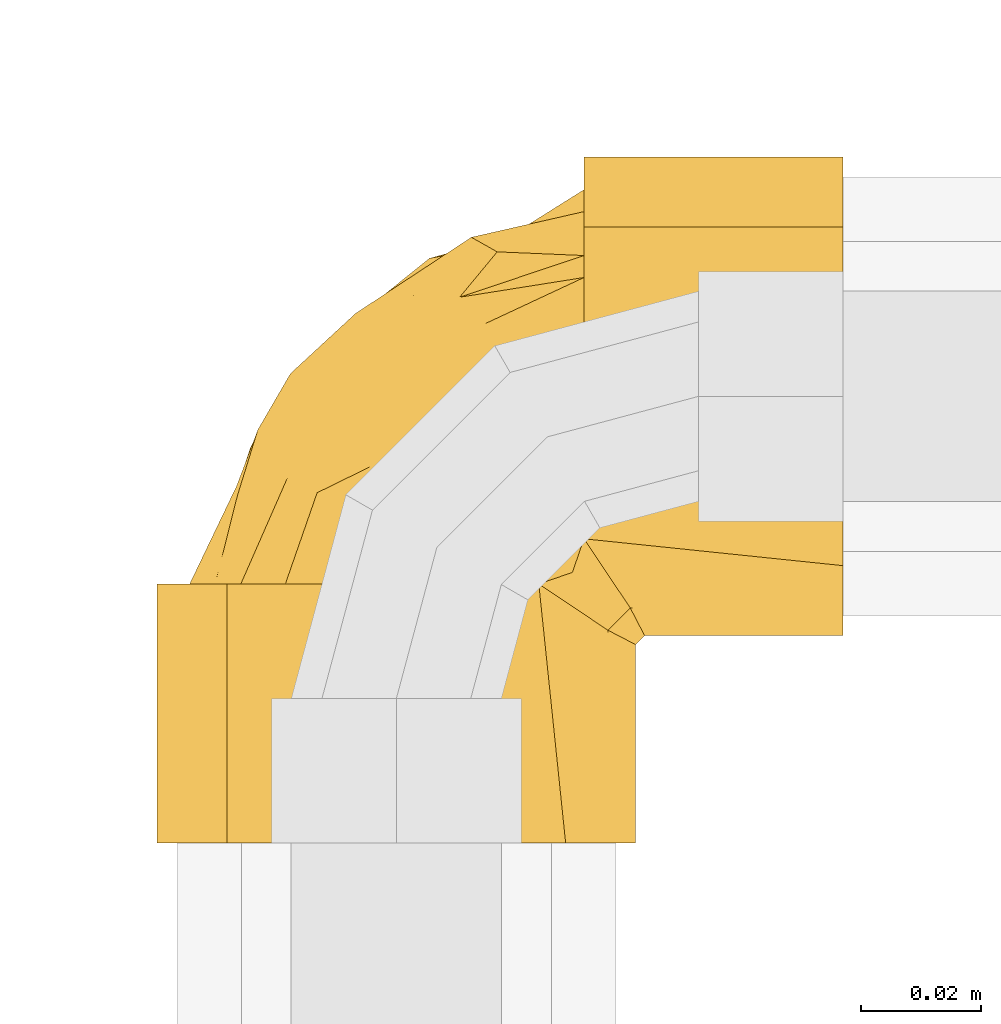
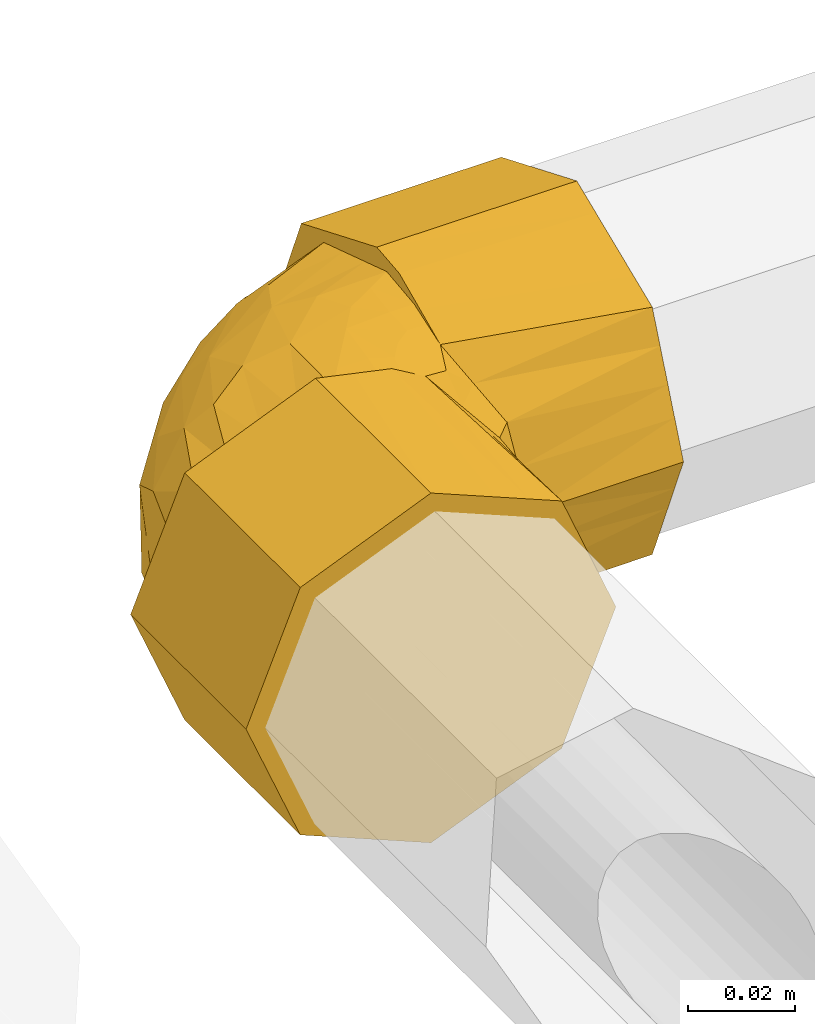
# One storey, part 276 of 652: 1 covering.
"""IFC2X3 building model written with IfcOpenShell, lengths in millimetres."""

from ifc_helpers import new_model, entity, si_unit, converted_unit, direction, frame, origin, place, context, subcontext, project, spatial, faceted_brep, material, type_object, element, save


model = new_model("IFC2X3")

# Units and contexts
model_context = context("Model", 3, precision=0.01, world=frame((0.0, 0.0, 308426.39999999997)), true_north=direction((6.123233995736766e-17, 1.0)))
plan_context = context("Plan", 3, precision=0.01, world=frame((0.0, 0.0, 308426.39999999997)), true_north=direction((6.123233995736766e-17, 1.0)))
body_context = subcontext(model_context, "Body", "Model", "MODEL_VIEW")
ifc_project = project(units=[si_unit("LENGTHUNIT", "METRE", prefix="MILLI"), si_unit("AREAUNIT", "SQUARE_METRE"), si_unit("VOLUMEUNIT", "CUBIC_METRE"), converted_unit("PLANEANGLEUNIT", "DEGREE", entity("IfcPlaneAngleMeasure", 0.017453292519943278), si_unit("PLANEANGLEUNIT", "RADIAN"), dimensions=[0, 0, 0, 0, 0, 0, 0])], contexts=[model_context, plan_context])

# Site, building, storey
site_placement = place(None, origin())
site = spatial("IfcSite", under=ifc_project, at=site_placement, Name="Default", CompositionType="ELEMENT")
building_placement = place(site_placement, origin())
building = spatial("IfcBuilding", under=site, at=building_placement, CompositionType="ELEMENT")
storey_placement = place(building_placement, frame((0.0, 0.0, 1730.6999999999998)))
storey = spatial("IfcBuildingStorey", under=building, at=storey_placement, Name="EG_Produktion_FFB", CompositionType="ELEMENT", Elevation=1730.6999999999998)

# Covering
ifc_material = material(Name="Dämmung - Armaflex-Schlauch")
covering_type = type_object("IfcCoveringType", Name="Rohrdämmung außen:Armaflex-Schlauch", PredefinedType="INSULATION")
covering_placement = place(storey_placement, frame((79080.69747546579, 78704.48010396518, 3641.3952722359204)))
element("IfcCovering", 1, at=covering_placement, inside=storey, type_object=covering_type, material=ifc_material, Name="Rohrdämmung außen:Armaflex-Schlauch", ObjectType="Rohrdämmung außen:Armaflex-Schlauch", PredefinedType="INSULATION", context=body_context, shape_type="Brep", body=[
    faceted_brep([(72.59527223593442, 60.274884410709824, -76.69198954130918), (72.59527223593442, 64.29230202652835, -77.16404151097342), (72.59527223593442, 70.51547105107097, -77.89527223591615), (72.59527223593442, 78.15107734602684, -74.45323515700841), (72.59527223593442, 85.78668364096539, -71.01119807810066), (72.59527223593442, 92.9604596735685, -67.77734838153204), (72.59527223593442, 100.13423570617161, -64.54349868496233), (72.59527223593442, 104.38836473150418, -52.96938546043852), (72.59527223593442, 108.64249375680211, -41.39527223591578), (72.59527223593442, 104.99034516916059, -34.17467666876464), (72.59527223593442, 101.33819658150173, -26.954081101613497), (72.59527223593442, 97.68604799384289, -19.733485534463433), (72.59527223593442, 94.03389940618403, -12.512889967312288), (72.59527223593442, 86.6719403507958, -10.128351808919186), (72.59527223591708, 78.59370570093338, -7.5118120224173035), (72.59527223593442, 70.51547105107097, -4.89527223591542), (72.59527223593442, 64.29230202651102, -5.62650296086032), (72.59527223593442, 60.274884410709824, -6.0985549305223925), (72.59527223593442, 55.423202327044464, -7.7518393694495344), (72.59527223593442, 50.57152024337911, -9.405123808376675), (72.59527223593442, 58.21189368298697, -5.948218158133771), (72.59527223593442, 65.8522671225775, -2.4913125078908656), (72.59527223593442, 74.24999999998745, -1.5952722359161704), (72.59527223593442, 82.25021212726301, -4.909068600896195), (72.59527223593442, 88.32142494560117, -7.423847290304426), (72.59527223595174, 95.35713741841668, -10.33813481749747), (72.59527223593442, 102.39284989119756, -13.252422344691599), (72.59527223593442, 105.3071374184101, -20.288134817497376), (72.59527223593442, 108.2214249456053, -27.323847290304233), (72.59527223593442, 111.13571247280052, -34.359559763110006), (72.59527223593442, 114.0499999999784, -41.39527223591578), (72.59527223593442, 110.73620360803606, -49.39548442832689), (72.59527223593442, 108.2214249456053, -55.46669718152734), (72.59527223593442, 105.3071374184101, -62.502409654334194), (72.59527223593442, 102.39284989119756, -69.53812212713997), (72.59527223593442, 95.35713741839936, -72.4524096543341), (72.59527223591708, 88.32142494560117, -75.36669718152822), (72.59527223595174, 82.25021085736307, -77.88147639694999), (72.59527223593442, 74.24999999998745, -81.1952722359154), (72.59527223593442, 66.046592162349, -79.42574657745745), (72.59527223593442, 57.843184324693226, -77.6562209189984), (72.59527223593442, 50.57152024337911, -73.3854206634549), (72.59527223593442, 55.423202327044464, -75.03870510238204), (115.64527223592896, 67.21428752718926, -4.509559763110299), (115.64527223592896, 60.17857505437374, -7.423847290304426), (115.64527223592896, 53.14286258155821, -10.33813481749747), (115.64527223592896, 46.10715010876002, -13.252422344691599), (115.64527223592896, 43.1928625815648, -20.288134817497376), (115.64527223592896, 40.2785750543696, -27.323847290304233), (115.64527223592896, 37.763796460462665, -33.39505987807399), (115.64527223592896, 34.44999999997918, -41.39527223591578), (115.64527223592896, 37.76379578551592, -49.39548296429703), (115.64527223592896, 40.2785750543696, -55.46669718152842), (115.64527223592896, 43.1928625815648, -62.502409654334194), (115.64527223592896, 46.10715010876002, -69.53812212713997), (115.64527223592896, 53.14286258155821, -72.4524096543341), (115.64527223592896, 60.17857505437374, -75.36669718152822), (115.64527223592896, 67.21428752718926, -78.28098470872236), (115.64527223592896, 74.24999999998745, -81.1952722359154), (115.64527223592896, 81.28571247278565, -78.28098470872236), (115.64527223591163, 88.32142494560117, -75.36669718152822), (115.64527223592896, 95.35713741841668, -72.4524096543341), (115.64527223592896, 102.39284989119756, -69.53812212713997), (115.64527223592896, 105.3071374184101, -62.502409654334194), (115.64527223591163, 108.22142494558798, -55.46669718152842), (115.64527223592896, 111.13571247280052, -48.43098470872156), (115.64527223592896, 114.0499999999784, -41.39527223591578), (115.64527223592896, 111.13571247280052, -34.359559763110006), (115.64527223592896, 108.2214249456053, -27.323847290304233), (115.64527223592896, 105.3071374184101, -20.288134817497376), (115.64527223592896, 102.39284989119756, -13.252422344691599), (115.64527223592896, 90.250425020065, -8.222865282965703), (115.64527223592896, 82.25021251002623, -4.90906875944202), (115.64527223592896, 74.24999999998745, -1.5952722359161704), (76.44407623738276, 44.81389553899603, -16.10717069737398), (82.67731282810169, 34.44999999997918, -41.39527223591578), (81.48509653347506, 36.753135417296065, -32.102244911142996), (80.2928802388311, 39.056270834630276, -22.809217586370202), (80.88898838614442, 37.9047031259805, -27.455731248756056), (76.44407623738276, 44.81389553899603, -66.68337377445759), (81.48509653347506, 36.753135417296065, -50.68829956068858), (80.2928802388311, 39.056270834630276, -59.98132688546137), (82.12387613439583, 35.51913456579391, -45.70917260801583), (41.395272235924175, 43.04999999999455, -81.19527223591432), (33.39506017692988, 43.04999999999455, -77.88147589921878), (27.323847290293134, 43.04999999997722, -75.36669718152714), (20.28813481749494, 43.04999999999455, -72.4524096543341), (13.252422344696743, 43.04999999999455, -69.53812212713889), (10.338134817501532, 43.04999999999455, -62.502409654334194), (7.4238472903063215, 43.04999999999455, -55.46669718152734), (4.909068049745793, 43.04999999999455, -49.39548303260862), (1.5952722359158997, 43.04999999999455, -41.3952722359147), (4.909068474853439, 43.04999999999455, -33.39506041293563), (7.4238472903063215, 43.04999999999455, -27.32384729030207), (10.338134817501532, 43.05000000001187, -20.288134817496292), (13.252422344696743, 43.04999999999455, -13.252422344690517), (20.288134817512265, 43.04999999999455, -10.338134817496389), (27.32384729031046, 43.04999999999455, -7.423847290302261), (34.35955976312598, 43.05000000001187, -4.509559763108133), (41.395272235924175, 43.04999999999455, -1.5952722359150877), (49.598680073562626, 43.04999999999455, -3.3647978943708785), (57.802087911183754, 43.04999999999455, -5.13432355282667), (65.07375199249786, 43.04999999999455, -9.405123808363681), (60.22206990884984, 43.05000000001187, -7.751839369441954), (55.37038782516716, 43.04999999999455, -6.0985549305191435), (51.35297091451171, 43.05000000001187, -5.626503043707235), (48.24138604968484, 43.05000000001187, -5.260887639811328), (45.12980118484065, 43.04999999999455, -4.89527223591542), (37.72511002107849, 43.05000000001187, -8.233215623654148), (30.320418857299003, 43.05000000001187, -11.571159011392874), (22.91572769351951, 43.05000000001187, -14.90910239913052), (15.511036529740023, 43.04999999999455, -18.247045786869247), (13.383972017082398, 43.05000000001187, -24.03410239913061), (11.256907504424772, 43.05000000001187, -29.821159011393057), (7.0027784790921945, 43.04999999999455, -41.39527223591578), (10.65492706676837, 43.05000000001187, -48.615867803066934), (14.307075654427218, 43.05000000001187, -55.83646337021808), (17.959224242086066, 43.05000000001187, -63.05705893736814), (21.61137282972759, 43.04999999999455, -70.27765450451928), (27.49097991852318, 43.05000000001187, -72.1820589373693), (33.370587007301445, 43.05000000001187, -74.08646337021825), (45.12980118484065, 43.04999999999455, -77.89527223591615), (48.241386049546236, 43.05000000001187, -77.5296568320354), (51.3529709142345, 43.05000000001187, -77.16404142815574), (55.37038782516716, 43.04999999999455, -76.6919895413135), (60.22206990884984, 43.05000000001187, -75.03870510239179), (65.07375199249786, 43.04999999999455, -73.38542066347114), (57.433378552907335, 43.04999999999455, -76.84232631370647), (49.7930051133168, 43.04999999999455, -80.29923196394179), (34.359559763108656, 0.0, -4.509559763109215), (27.32384729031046, 0.0, -7.423847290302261), (20.28813481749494, 0.0, -10.33813481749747), (13.252422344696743, 0.0, -13.252422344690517), (8.22286515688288, 0.0, -25.394847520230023), (4.90906869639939, 0.0, -33.39505987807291), (1.5952722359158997, 0.0, -41.3952722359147), (4.509559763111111, 0.0, -48.43098470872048), (7.4238472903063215, 0.0, -55.46669718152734), (10.338134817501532, 0.0, -62.502409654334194), (13.252422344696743, 0.0, -69.53812212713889), (20.288134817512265, 0.0, -72.4524096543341), (27.32384729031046, 0.0, -75.36669718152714), (34.359559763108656, 0.0, -78.28098470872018), (41.395272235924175, 0.0, -81.19527223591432), (48.4309847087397, 0.0, -78.28098470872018), (55.466697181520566, 0.0, -75.36669718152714), (62.50240965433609, 0.0, -72.45240965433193), (69.53812212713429, 0.0, -69.53812212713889), (72.45240965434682, 0.0, -62.502409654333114), (75.36669718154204, 0.0, -55.46669718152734), (77.88147570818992, 0.0, -49.39548475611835), (81.19527223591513, 0.0, -41.3952722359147), (77.88147644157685, 0.0, -33.39506148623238), (75.36669718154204, 0.0, -27.32384729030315), (72.45240965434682, 0.0, -20.288134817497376), (69.53812212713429, 0.0, -13.252422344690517), (62.50240965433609, 0.0, -10.338134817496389), (55.466697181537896, 0.0, -7.423847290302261), (49.39548474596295, 0.0, -4.909068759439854), (41.395272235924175, 0.0, -1.5952722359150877), (81.19527223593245, 32.96795940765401, -41.39527223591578), (78.89213681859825, 34.16017570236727, -32.10224491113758), (76.58900140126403, 35.35239199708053, -22.80921758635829), (79.05700314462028, 34.07483277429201, -32.76747165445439), (70.83137669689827, 39.201195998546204, -16.107170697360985), (70.83137669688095, 39.201195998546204, -66.68337377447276), (78.89213681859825, 34.16017570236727, -50.68829956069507), (76.58900140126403, 35.35239199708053, -59.98132688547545), (79.05700314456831, 34.07483277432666, -50.02307281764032), (80.1261376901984, 33.52139609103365, -45.709172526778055), (28.206053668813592, 58.23247908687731, -12.134172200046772), (56.30546273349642, 86.42116019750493, -11.872305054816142), (50.75028825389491, 75.59755590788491, -8.38194967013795), (61.09574012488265, 63.92252865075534, -4.89527223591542), (57.987078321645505, 71.17681219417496, -5.713052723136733), (45.9507799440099, 60.44014498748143, -5.822581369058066), (36.88337413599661, 74.83060129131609, -14.291189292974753), (51.91196638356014, 90.75092202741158, -17.295947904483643), (23.773093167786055, 78.0596475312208, -41.39527223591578), (18.356403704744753, 68.73831739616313, -33.32279780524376), (34.595046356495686, 88.06243078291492, -32.962075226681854), (60.38972746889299, 100.99678220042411, -41.39527223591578), (53.85236224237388, 100.72281157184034, -31.958631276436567), (33.57875936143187, 79.36057207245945, -20.543012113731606), (46.960571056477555, 45.44339488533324, -4.89527223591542), (48.791340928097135, 47.83678977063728, -4.89527223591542), (52.45288067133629, 52.623579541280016, -4.89527223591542), (53.11277065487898, 53.48626432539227, -4.89527223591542), (56.77431039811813, 58.27305409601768, -4.89527223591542), (23.214744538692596, 60.59226921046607, -17.204288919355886), (44.283571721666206, 91.05533751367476, -23.523091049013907), (58.15325374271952, 98.29864441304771, -22.506400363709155), (22.7977909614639, 69.72062004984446, -24.54284909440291), (30.874072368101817, 81.643537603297, -26.88167673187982), (15.387935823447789, 60.554823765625, -41.39527223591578), (14.820190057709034, 59.36959978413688, -41.39527223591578), (48.1841827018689, 93.35107064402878, -41.39527223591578), (42.250937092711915, 89.63440863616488, -41.39527223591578), (35.978637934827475, 85.70535908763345, -41.39527223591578), (14.94866088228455, 57.76510271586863, -26.983143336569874), (36.8672235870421, 62.477618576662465, -8.925282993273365), (57.423104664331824, 99.13845119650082, -41.39527223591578), (67.3207949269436, 67.49149366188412, -4.89527223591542), (66.95210059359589, 59.66627116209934, -5.551365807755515), (67.68084856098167, 54.38051617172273, -6.779464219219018), (81.90790933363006, 33.737362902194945, -41.39527223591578), (64.0592672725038, 51.58600444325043, -6.674921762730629), (70.65705203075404, 44.9882204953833, -11.256462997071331), (61.2647563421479, 47.964422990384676, -6.779464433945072), (56.00707165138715, 48.600669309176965, -5.565993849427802), (66.95210059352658, 59.66627116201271, -77.23917866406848), (67.32079492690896, 67.49149366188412, -77.89527223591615), (70.65705212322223, 44.988220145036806, -71.53408126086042), (64.05926802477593, 51.58600369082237, -76.11562236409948), (56.77431039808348, 58.273054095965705, -77.89527223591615), (67.68084859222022, 54.3805161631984, -76.01108024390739), (61.264756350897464, 47.96442295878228, -76.01108002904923), (56.00707165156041, 48.600669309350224, -77.2245506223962), (48.79134092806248, 47.83678977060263, -77.89527223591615), (46.960571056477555, 45.44339488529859, -77.89527223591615), (52.45288067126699, 52.623579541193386, -77.89527223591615), (53.11277065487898, 53.48626432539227, -77.89527223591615), (61.09574012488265, 63.92252865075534, -77.89527223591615), (55.93070336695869, 78.04877773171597, -74.88571901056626), (57.41477332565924, 85.86627113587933, -71.63741334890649), (39.07241371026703, 57.28853793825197, -75.88132954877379), (32.138649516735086, 85.39518385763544, -50.93896013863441), (35.61207145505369, 77.13544844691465, -66.01083955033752), (41.05493786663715, 68.41457314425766, -73.66837271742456), (28.565877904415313, 64.68516499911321, -68.1827076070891), (49.421239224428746, 64.86670611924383, -76.89386599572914), (59.57612792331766, 73.19566844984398, -76.90226649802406), (47.70689865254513, 85.81857944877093, -67.4389266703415), (28.82672081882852, 75.96028629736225, -60.25020692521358), (17.118194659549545, 65.77892171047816, -51.15639169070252), (18.653154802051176, 60.53986394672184, -60.07117178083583), (32.135143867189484, 57.39776429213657, -73.1634227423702), (50.73714499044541, 95.84113677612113, -58.195779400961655), (40.74201153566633, 86.4944008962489, -61.69889229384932), (59.56172140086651, 94.20624665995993, -66.04016185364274), (46.88832387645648, 97.22085117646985, -49.678033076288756)], [[[0, 1, 2, 3, 4, 5, 6, 7, 8, 9, 10, 11, 12, 13, 14, 15, 16, 17, 18, 19, 20, 21, 22, 23, 24, 25, 26, 27, 28, 29, 30, 31, 32, 33, 34, 35, 36, 37, 38, 39, 40, 41, 42]], [[43, 44, 45, 46, 47, 48, 49, 50, 51, 52, 53, 54, 55, 56, 57, 58, 59, 60, 61, 62, 63, 64, 65, 66, 67, 68, 69, 70, 71, 72, 73]], [[47, 46, 74]], [[75, 50, 49]], [[76, 75, 49]], [[48, 77, 78, 76]], [[47, 74, 77]], [[44, 20, 45]], [[43, 21, 44]], [[46, 19, 74]], [[77, 48, 47]], [[44, 21, 20]], [[43, 22, 21]], [[48, 76, 49]], [[43, 73, 22]], [[45, 20, 19]], [[19, 46, 45]], [[23, 22, 73, 72, 71, 70, 26, 25, 24]], [[26, 70, 69, 68, 67, 66, 30, 29, 28, 27]], [[38, 37, 36, 35, 34, 62, 61, 60, 59, 58]], [[30, 66, 65, 64, 63, 62, 34, 33, 32, 31]], [[56, 40, 39]], [[53, 79, 54]], [[39, 57, 56]], [[41, 55, 54]], [[40, 55, 41]], [[80, 52, 51]], [[52, 80, 81]], [[58, 57, 38]], [[51, 75, 82, 80]], [[38, 57, 39]], [[79, 53, 81]], [[55, 40, 56]], [[51, 50, 75]], [[53, 52, 81]], [[79, 41, 54]], [[83, 84, 85, 86, 87, 88, 89, 90, 91, 92, 93, 94, 95, 96, 97, 98, 99, 100, 101, 102, 103, 104, 105, 106, 107, 108, 109, 110, 111, 112, 113, 114, 115, 116, 117, 118, 119, 120, 121, 122, 123, 124, 125, 126, 127, 128]], [[129, 130, 131, 132, 133, 134, 135, 136, 137, 138, 139, 140, 141, 142, 143, 144, 145, 146, 147, 148, 149, 150, 151, 152, 153, 154, 155, 156, 157, 158, 159]], [[135, 134, 133, 132, 95, 94, 93, 92, 91]], [[95, 132, 131, 130, 129, 159, 99, 98, 97, 96]], [[159, 158, 157, 100]], [[101, 156, 102]], [[99, 159, 100]], [[101, 100, 157]], [[152, 151, 160]], [[102, 156, 155]], [[153, 161, 162]], [[161, 153, 152]], [[152, 160, 163, 161]], [[154, 164, 155]], [[164, 154, 162]], [[156, 101, 157]], [[154, 153, 162]], [[164, 102, 155]], [[148, 147, 165]], [[149, 166, 150]], [[166, 149, 167]], [[160, 151, 150]], [[148, 165, 167]], [[145, 127, 146]], [[144, 128, 145]], [[147, 126, 165]], [[167, 149, 148]], [[145, 128, 127]], [[144, 83, 128]], [[150, 166, 168, 169, 160]], [[144, 143, 83]], [[146, 127, 126]], [[126, 147, 146]], [[91, 90, 89, 88, 87, 139, 138, 137, 136, 135]], [[141, 140, 139, 87, 86, 85, 84, 83, 143, 142]], [[109, 170, 110]], [[13, 171, 172]], [[14, 13, 172]], [[173, 174, 175]], [[176, 171, 177]], [[15, 14, 174]], [[178, 179, 180]], [[9, 181, 182]], [[172, 175, 174]], [[13, 12, 171]], [[12, 11, 177]], [[176, 177, 183]], [[175, 107, 184, 185, 186, 187, 188, 173]], [[189, 170, 176]], [[176, 172, 171]], [[190, 191, 182]], [[11, 10, 191]], [[177, 11, 191]], [[170, 189, 110]], [[192, 183, 193]], [[179, 178, 194, 195]], [[182, 191, 10]], [[190, 182, 180]], [[177, 191, 190]], [[182, 10, 9]], [[182, 196, 180]], [[177, 190, 183]], [[177, 171, 12]], [[180, 196, 197, 198, 178]], [[113, 179, 195]], [[112, 111, 199, 113]], [[199, 111, 189]], [[195, 114, 113]], [[179, 192, 193]], [[200, 175, 172]], [[200, 108, 175]], [[172, 176, 200]], [[189, 111, 110]], [[200, 170, 109]], [[183, 189, 176]], [[108, 200, 109]], [[189, 192, 199]], [[108, 107, 175]], [[176, 170, 200]], [[193, 190, 180]], [[189, 183, 192]], [[190, 193, 183]], [[179, 193, 180]], [[181, 9, 8]], [[182, 181, 201, 196]], [[192, 179, 199]], [[179, 113, 199]], [[174, 173, 202, 15]], [[172, 174, 14]], [[173, 203, 202]], [[188, 204, 203]], [[17, 203, 18]], [[202, 17, 16, 15]], [[205, 76, 163]], [[74, 164, 162, 77]], [[163, 76, 78]], [[78, 77, 162, 161]], [[206, 102, 207]], [[207, 164, 74]], [[106, 105, 104, 185, 184, 107]], [[206, 208, 102]], [[186, 185, 209, 188, 187]], [[205, 75, 76]], [[163, 160, 205]], [[206, 207, 19]], [[164, 207, 102]], [[19, 18, 204]], [[19, 207, 74]], [[202, 203, 17]], [[204, 206, 19]], [[203, 173, 188]], [[18, 203, 204]], [[102, 208, 103]], [[103, 209, 104]], [[208, 206, 188]], [[209, 103, 208]], [[209, 185, 104]], [[188, 209, 208]], [[204, 188, 206]], [[205, 160, 169]], [[210, 211, 0]], [[169, 168, 166, 167, 81, 80, 82]], [[41, 212, 213]], [[1, 0, 211, 2]], [[213, 214, 215]], [[205, 169, 82]], [[79, 165, 212]], [[126, 125, 216]], [[213, 212, 126]], [[205, 82, 75]], [[167, 165, 79, 81]], [[217, 124, 218]], [[210, 215, 214]], [[122, 121, 219, 218, 124, 123]], [[41, 79, 212]], [[212, 165, 126]], [[215, 41, 213]], [[125, 124, 217]], [[126, 216, 213]], [[125, 217, 216]], [[217, 218, 220, 221, 214]], [[215, 42, 41]], [[0, 42, 210]], [[211, 210, 222]], [[214, 213, 216]], [[210, 42, 215]], [[216, 217, 214]], [[210, 214, 222]], [[4, 223, 224]], [[121, 120, 225]], [[226, 178, 198, 197]], [[227, 228, 229]], [[230, 228, 223]], [[231, 222, 230]], [[224, 228, 232]], [[233, 234, 226]], [[3, 231, 223]], [[235, 234, 233]], [[236, 225, 120]], [[231, 2, 211, 222]], [[226, 237, 238]], [[4, 3, 223]], [[225, 221, 220, 218, 219, 121]], [[239, 224, 232]], [[6, 237, 7]], [[237, 6, 239]], [[240, 201, 7]], [[230, 225, 228]], [[226, 240, 237]], [[236, 228, 225]], [[229, 117, 235]], [[194, 234, 115]], [[226, 234, 178]], [[115, 114, 195, 194]], [[237, 239, 238]], [[240, 226, 197]], [[228, 224, 223]], [[224, 239, 5]], [[5, 239, 6]], [[5, 4, 224]], [[239, 232, 238]], [[7, 201, 181, 8]], [[7, 237, 240]], [[240, 197, 196, 201]], [[229, 118, 117]], [[194, 178, 234]], [[233, 238, 227]], [[235, 117, 116]], [[234, 235, 116]], [[229, 235, 233]], [[231, 3, 2]], [[230, 223, 231]], [[230, 222, 214, 221]], [[225, 230, 221]], [[119, 118, 236, 120]], [[236, 118, 229]], [[229, 228, 236]], [[234, 116, 115]], [[227, 238, 232]], [[226, 238, 233]], [[228, 227, 232]], [[233, 227, 229]], [[78, 161, 163]]]),
])

save(model, "model.ifc")
